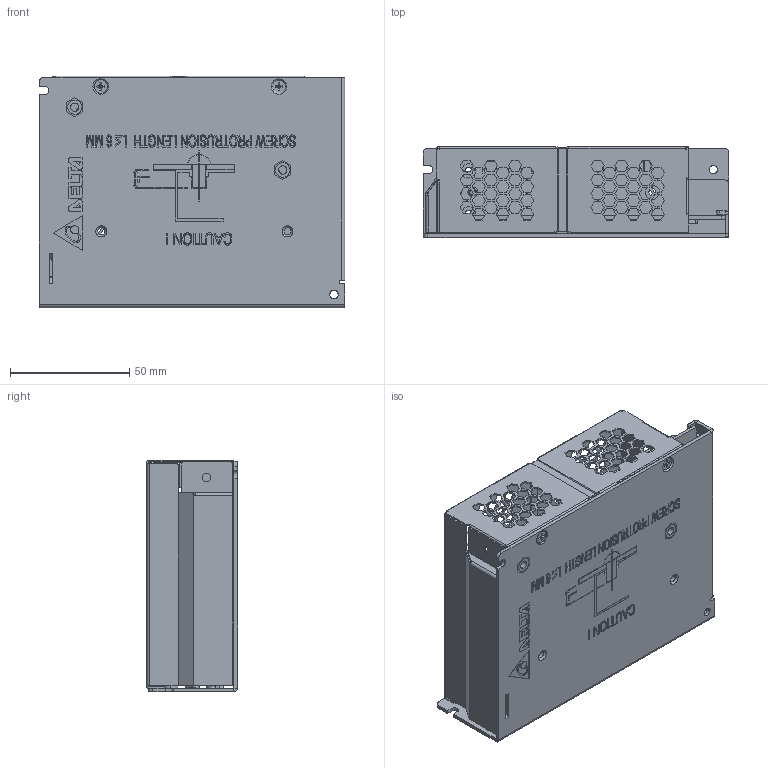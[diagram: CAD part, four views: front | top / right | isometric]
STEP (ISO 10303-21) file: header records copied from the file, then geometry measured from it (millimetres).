
FILE_DESCRIPTION((''),'2;1');
FILE_NAME('PMC-05V050W1AA_ASM','2012-04-20T',('Manop.Pr'),(''),'PRO/ENGINEER BY PARAMETRIC TECHNOLOGY CORPORATION, 2010180','PRO/ENGINEER BY PARAMETRIC TECHNOLOGY CORPORATION, 2010180','');
FILE_SCHEMA(('CONFIG_CONTROL_DESIGN','SHAPE_APPEARANCE_LAYERS_GROUPS'));
Products named in the file (18): 331613420001; 331613420001_A_STUD; 331613420001_ASM; 331602180101; 326203870304; 3268095800; 2958043804_PWB; 307049747W_A_BODY; 307049747W_A_SCREW; 307049747W_ASM; EE_VR510_BODY; EE_VR510_LEG; EE_VR510_ASM; EE_LED101; ASSY_PWB_ASM; 3100001200; 3103000500; PMC-05V050W1AA_ASM
Assembly tree (27 placements, depth 4):
  PMC-05V050W1AA_ASM
    331613420001_ASM
      331613420001
      331613420001_A_STUD  x2
    331602180101
    326203870304
    3268095800
    ASSY_PWB_ASM
      2958043804_PWB
      307049747W_ASM
        307049747W_A_BODY
        307049747W_A_SCREW  x5
      EE_VR510_ASM
        EE_VR510_BODY
        EE_VR510_LEG  x3
      EE_LED101
    3100001200
    3103000500  x4
Bounding box: 128 x 38.15 x 97.05 mm (x, y, z)
Volume: 61769.3 mm3; surface area: 107597.8 mm2
Topology: 23 solids, 23 shells, 5029 faces, 13490 edges, 8372 vertices
Faces by surface type: plane 3708, cylinder 489, extrusion 408, bspline 282, cone 122, torus 20
Entity records: 176405 total; most frequent: CARTESIAN_POINT 31966, ORIENTED_EDGE 23524, DIRECTION 19677, EDGE_CURVE 11762, PRESENTATION_STYLE_ASSIGNMENT 11576, STYLED_ITEM 11391, CURVE_STYLE 11382, VECTOR 10397
